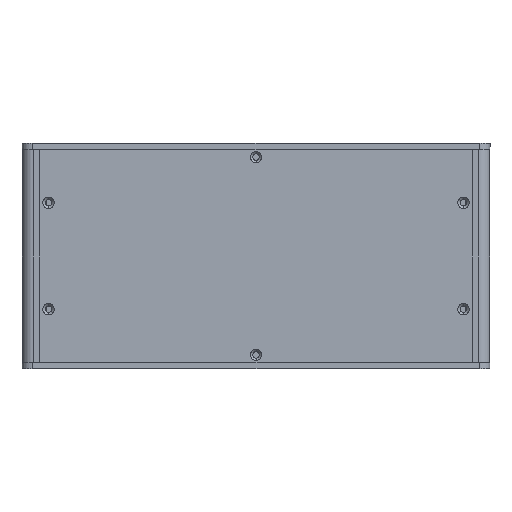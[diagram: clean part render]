
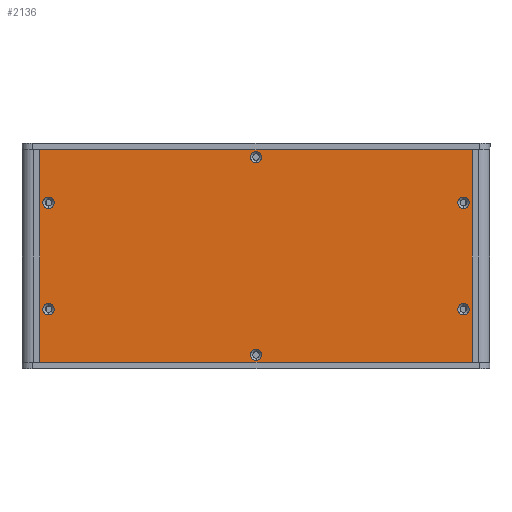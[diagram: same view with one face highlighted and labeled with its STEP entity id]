
A CAD part, front view. The second image highlights one B-rep face of the part: STEP entity #2136.
In plain terms, the highlighted planar face has unit normal (0, -1, 0) as drawn and (0, 1, 0) by its records, which use the part's own axes.
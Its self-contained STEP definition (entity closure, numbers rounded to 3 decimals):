
#88 = CARTESIAN_POINT ( 'NONE',  ( 0., 0.75, -96.5 ) ) ;
#233 = DIRECTION ( 'NONE',  ( 0., -1., 0. ) ) ;
#338 = CIRCLE ( 'NONE', #14693, 2.7 ) ;
#428 = AXIS2_PLACEMENT_3D ( 'NONE', #14872, #1555, #7470 ) ;
#469 = CARTESIAN_POINT ( 'NONE',  ( 97.5, 0.75, -27.7 ) ) ;
#475 = ORIENTED_EDGE ( 'NONE', *, *, #1565, .T. ) ;
#504 = DIRECTION ( 'NONE',  ( 0., 0., 1. ) ) ;
#514 = VERTEX_POINT ( 'NONE', #675 ) ;
#564 = VERTEX_POINT ( 'NONE', #7850 ) ;
#568 = CARTESIAN_POINT ( 'NONE',  ( -101.6, 0.75, 0. ) ) ;
#675 = CARTESIAN_POINT ( 'NONE',  ( 97.5, 0.75, -72.3 ) ) ;
#999 = DIRECTION ( 'NONE',  ( 0., -1., 0. ) ) ;
#1058 = AXIS2_PLACEMENT_3D ( 'NONE', #15263, #4454, #3580 ) ;
#1075 = CARTESIAN_POINT ( 'NONE',  ( -97.5, 0.75, -75. ) ) ;
#1254 = ORIENTED_EDGE ( 'NONE', *, *, #7627, .T. ) ;
#1355 = CIRCLE ( 'NONE', #14205, 2.7 ) ;
#1555 = DIRECTION ( 'NONE',  ( 0., 1., 0. ) ) ;
#1565 = EDGE_CURVE ( 'NONE', #7620, #564, #12877, .T. ) ;
#1576 = CARTESIAN_POINT ( 'NONE',  ( -97.5, 0.75, -22.3 ) ) ;
#1670 = DIRECTION ( 'NONE',  ( 0., -1., 0. ) ) ;
#1714 = CARTESIAN_POINT ( 'NONE',  ( 97.5, 0.75, -22.3 ) ) ;
#1817 = VERTEX_POINT ( 'NONE', #1576 ) ;
#2136 = ADVANCED_FACE ( 'NONE', ( #7625, #7703, #12447, #11090, #13709, #13626, #2659 ), #11250, .T. ) ;
#2187 = DIRECTION ( 'NONE',  ( 0., -1., 0. ) ) ;
#2659 = FACE_OUTER_BOUND ( 'NONE', #6556, .T. ) ;
#2743 = ORIENTED_EDGE ( 'NONE', *, *, #11458, .F. ) ;
#2763 = EDGE_CURVE ( 'NONE', #12801, #14950, #14254, .T. ) ;
#3327 = ORIENTED_EDGE ( 'NONE', *, *, #10574, .T. ) ;
#3580 = DIRECTION ( 'NONE',  ( 0., 0., 1. ) ) ;
#3766 = EDGE_CURVE ( 'NONE', #5568, #5898, #12272, .T. ) ;
#3786 = ORIENTED_EDGE ( 'NONE', *, *, #13121, .T. ) ;
#3789 = CARTESIAN_POINT ( 'NONE',  ( 0., 0.75, -93.8 ) ) ;
#3799 = ORIENTED_EDGE ( 'NONE', *, *, #3766, .T. ) ;
#3859 = DIRECTION ( 'NONE',  ( 0., 0., 1. ) ) ;
#3941 = ORIENTED_EDGE ( 'NONE', *, *, #10877, .F. ) ;
#4003 = DIRECTION ( 'NONE',  ( 0., 0., 1. ) ) ;
#4055 = CIRCLE ( 'NONE', #10109, 2.7 ) ;
#4069 = EDGE_LOOP ( 'NONE', ( #10825, #11524 ) ) ;
#4166 = EDGE_LOOP ( 'NONE', ( #475, #1254 ) ) ;
#4443 = DIRECTION ( 'NONE',  ( 0., -1., 0. ) ) ;
#4454 = DIRECTION ( 'NONE',  ( 0., -1., 0. ) ) ;
#4522 = CARTESIAN_POINT ( 'NONE',  ( 97.5, 0.75, -25. ) ) ;
#4696 = DIRECTION ( 'NONE',  ( 0., -1., 0. ) ) ;
#4910 = EDGE_LOOP ( 'NONE', ( #5186, #9091 ) ) ;
#5132 = DIRECTION ( 'NONE',  ( 0., 0., 1. ) ) ;
#5186 = ORIENTED_EDGE ( 'NONE', *, *, #10035, .T. ) ;
#5202 = EDGE_CURVE ( 'NONE', #6240, #1817, #9244, .T. ) ;
#5318 = DIRECTION ( 'NONE',  ( 0., -1., 0. ) ) ;
#5558 = CARTESIAN_POINT ( 'NONE',  ( 0., 0.75, -3.5 ) ) ;
#5568 = VERTEX_POINT ( 'NONE', #469 ) ;
#5610 = CARTESIAN_POINT ( 'NONE',  ( 97.5, 0.75, -77.7 ) ) ;
#5898 = VERTEX_POINT ( 'NONE', #1714 ) ;
#5928 = VERTEX_POINT ( 'NONE', #6447 ) ;
#5957 = VERTEX_POINT ( 'NONE', #6970 ) ;
#5997 = DIRECTION ( 'NONE',  ( 0., 0., 1. ) ) ;
#6069 = AXIS2_PLACEMENT_3D ( 'NONE', #7179, #233, #3859 ) ;
#6117 = DIRECTION ( 'NONE',  ( 0., 0., 1. ) ) ;
#6240 = VERTEX_POINT ( 'NONE', #11029 ) ;
#6294 = VECTOR ( 'NONE', #14488, 1000. ) ;
#6353 = CIRCLE ( 'NONE', #1058, 2.7 ) ;
#6447 = CARTESIAN_POINT ( 'NONE',  ( -101.6, 0.75, 0. ) ) ;
#6556 = EDGE_LOOP ( 'NONE', ( #3941, #2743, #10813, #12507 ) ) ;
#6612 = DIRECTION ( 'NONE',  ( 0., -1., 0. ) ) ;
#6671 = EDGE_CURVE ( 'NONE', #514, #15532, #4055, .T. ) ;
#6721 = EDGE_CURVE ( 'NONE', #15089, #9800, #14649, .T. ) ;
#6768 = ORIENTED_EDGE ( 'NONE', *, *, #6721, .T. ) ;
#6815 = DIRECTION ( 'NONE',  ( 0., -1., 0. ) ) ;
#6855 = EDGE_LOOP ( 'NONE', ( #3327, #3799 ) ) ;
#6970 = CARTESIAN_POINT ( 'NONE',  ( -97.5, 0.75, -72.3 ) ) ;
#7069 = CARTESIAN_POINT ( 'NONE',  ( 97.5, 0.75, -75. ) ) ;
#7132 = EDGE_CURVE ( 'NONE', #15532, #514, #6353, .T. ) ;
#7167 = CIRCLE ( 'NONE', #11953, 2.7 ) ;
#7169 = DIRECTION ( 'NONE',  ( 0., 0., 1. ) ) ;
#7179 = CARTESIAN_POINT ( 'NONE',  ( 0., 0.75, -96.5 ) ) ;
#7244 = ORIENTED_EDGE ( 'NONE', *, *, #8333, .T. ) ;
#7303 = CARTESIAN_POINT ( 'NONE',  ( -101.6, 0.75, -100. ) ) ;
#7470 = DIRECTION ( 'NONE',  ( 0., 0., 1. ) ) ;
#7620 = VERTEX_POINT ( 'NONE', #3789 ) ;
#7625 = FACE_BOUND ( 'NONE', #9303, .T. ) ;
#7627 = EDGE_CURVE ( 'NONE', #564, #7620, #14913, .T. ) ;
#7703 = FACE_BOUND ( 'NONE', #4166, .T. ) ;
#7733 = AXIS2_PLACEMENT_3D ( 'NONE', #11520, #10330, #15140 ) ;
#7753 = EDGE_LOOP ( 'NONE', ( #15060, #3786 ) ) ;
#7850 = CARTESIAN_POINT ( 'NONE',  ( 0., 0.75, -99.2 ) ) ;
#8260 = DIRECTION ( 'NONE',  ( 0., 0., 1. ) ) ;
#8333 = EDGE_CURVE ( 'NONE', #9800, #15089, #338, .T. ) ;
#8594 = CARTESIAN_POINT ( 'NONE',  ( -101.6, 0.75, -100. ) ) ;
#8684 = CARTESIAN_POINT ( 'NONE',  ( 97.5, 0.75, -25. ) ) ;
#8897 = DIRECTION ( 'NONE',  ( 0., 0., 1. ) ) ;
#8928 = LINE ( 'NONE', #568, #15487 ) ;
#9091 = ORIENTED_EDGE ( 'NONE', *, *, #5202, .T. ) ;
#9205 = VECTOR ( 'NONE', #7169, 1000. ) ;
#9244 = CIRCLE ( 'NONE', #7733, 2.7 ) ;
#9303 = EDGE_LOOP ( 'NONE', ( #6768, #7244 ) ) ;
#9359 = AXIS2_PLACEMENT_3D ( 'NONE', #9521, #2187, #8260 ) ;
#9473 = EDGE_CURVE ( 'NONE', #5957, #13417, #13967, .T. ) ;
#9521 = CARTESIAN_POINT ( 'NONE',  ( 0., 0.75, -3.5 ) ) ;
#9537 = LINE ( 'NONE', #11022, #9205 ) ;
#9553 = LINE ( 'NONE', #8594, #14229 ) ;
#9763 = VERTEX_POINT ( 'NONE', #14030 ) ;
#9800 = VERTEX_POINT ( 'NONE', #11149 ) ;
#10035 = EDGE_CURVE ( 'NONE', #1817, #6240, #1355, .T. ) ;
#10109 = AXIS2_PLACEMENT_3D ( 'NONE', #7069, #999, #14172 ) ;
#10138 = DIRECTION ( 'NONE',  ( 0., 0., 1. ) ) ;
#10330 = DIRECTION ( 'NONE',  ( 0., -1., 0. ) ) ;
#10574 = EDGE_CURVE ( 'NONE', #5898, #5568, #7167, .T. ) ;
#10813 = ORIENTED_EDGE ( 'NONE', *, *, #2763, .T. ) ;
#10825 = ORIENTED_EDGE ( 'NONE', *, *, #6671, .T. ) ;
#10877 = EDGE_CURVE ( 'NONE', #9763, #5928, #8928, .T. ) ;
#11013 = EDGE_CURVE ( 'NONE', #14950, #5928, #9553, .T. ) ;
#11022 = CARTESIAN_POINT ( 'NONE',  ( 101.6, 0.75, -100. ) ) ;
#11029 = CARTESIAN_POINT ( 'NONE',  ( -97.5, 0.75, -27.7 ) ) ;
#11045 = DIRECTION ( 'NONE',  ( 0., -1., 0. ) ) ;
#11090 = FACE_BOUND ( 'NONE', #4069, .T. ) ;
#11116 = AXIS2_PLACEMENT_3D ( 'NONE', #1075, #4696, #6117 ) ;
#11149 = CARTESIAN_POINT ( 'NONE',  ( 0., 0.75, -6.2 ) ) ;
#11250 = PLANE ( 'NONE',  #428 ) ;
#11265 = CARTESIAN_POINT ( 'NONE',  ( -97.5, 0.75, -75. ) ) ;
#11458 = EDGE_CURVE ( 'NONE', #12801, #9763, #9537, .T. ) ;
#11520 = CARTESIAN_POINT ( 'NONE',  ( -97.5, 0.75, -25. ) ) ;
#11524 = ORIENTED_EDGE ( 'NONE', *, *, #7132, .T. ) ;
#11953 = AXIS2_PLACEMENT_3D ( 'NONE', #4522, #6815, #14149 ) ;
#12152 = AXIS2_PLACEMENT_3D ( 'NONE', #88, #11045, #8897 ) ;
#12272 = CIRCLE ( 'NONE', #12772, 2.7 ) ;
#12376 = CIRCLE ( 'NONE', #11116, 2.7 ) ;
#12407 = DIRECTION ( 'NONE',  ( -1., 0., 0. ) ) ;
#12447 = FACE_BOUND ( 'NONE', #6855, .T. ) ;
#12507 = ORIENTED_EDGE ( 'NONE', *, *, #11013, .T. ) ;
#12772 = AXIS2_PLACEMENT_3D ( 'NONE', #8684, #1670, #5132 ) ;
#12801 = VERTEX_POINT ( 'NONE', #14501 ) ;
#12877 = CIRCLE ( 'NONE', #6069, 2.7 ) ;
#13121 = EDGE_CURVE ( 'NONE', #13417, #5957, #12376, .T. ) ;
#13417 = VERTEX_POINT ( 'NONE', #15339 ) ;
#13626 = FACE_BOUND ( 'NONE', #7753, .T. ) ;
#13687 = CARTESIAN_POINT ( 'NONE',  ( -101.6, 0.75, -100. ) ) ;
#13709 = FACE_BOUND ( 'NONE', #4910, .T. ) ;
#13717 = AXIS2_PLACEMENT_3D ( 'NONE', #11265, #6612, #4003 ) ;
#13967 = CIRCLE ( 'NONE', #13717, 2.7 ) ;
#14030 = CARTESIAN_POINT ( 'NONE',  ( 101.6, 0.75, 0. ) ) ;
#14149 = DIRECTION ( 'NONE',  ( 0., 0., 1. ) ) ;
#14172 = DIRECTION ( 'NONE',  ( 0., 0., 1. ) ) ;
#14205 = AXIS2_PLACEMENT_3D ( 'NONE', #15085, #4443, #504 ) ;
#14229 = VECTOR ( 'NONE', #5997, 1000. ) ;
#14254 = LINE ( 'NONE', #7303, #6294 ) ;
#14488 = DIRECTION ( 'NONE',  ( -1., 0., 0. ) ) ;
#14501 = CARTESIAN_POINT ( 'NONE',  ( 101.6, 0.75, -100. ) ) ;
#14649 = CIRCLE ( 'NONE', #9359, 2.7 ) ;
#14693 = AXIS2_PLACEMENT_3D ( 'NONE', #5558, #5318, #10138 ) ;
#14872 = CARTESIAN_POINT ( 'NONE',  ( -101.6, 0.75, -100. ) ) ;
#14913 = CIRCLE ( 'NONE', #12152, 2.7 ) ;
#14950 = VERTEX_POINT ( 'NONE', #13687 ) ;
#15060 = ORIENTED_EDGE ( 'NONE', *, *, #9473, .T. ) ;
#15085 = CARTESIAN_POINT ( 'NONE',  ( -97.5, 0.75, -25. ) ) ;
#15089 = VERTEX_POINT ( 'NONE', #15334 ) ;
#15140 = DIRECTION ( 'NONE',  ( 0., 0., 1. ) ) ;
#15263 = CARTESIAN_POINT ( 'NONE',  ( 97.5, 0.75, -75. ) ) ;
#15334 = CARTESIAN_POINT ( 'NONE',  ( 0., 0.75, -0.8 ) ) ;
#15339 = CARTESIAN_POINT ( 'NONE',  ( -97.5, 0.75, -77.7 ) ) ;
#15487 = VECTOR ( 'NONE', #12407, 1000. ) ;
#15532 = VERTEX_POINT ( 'NONE', #5610 ) ;
